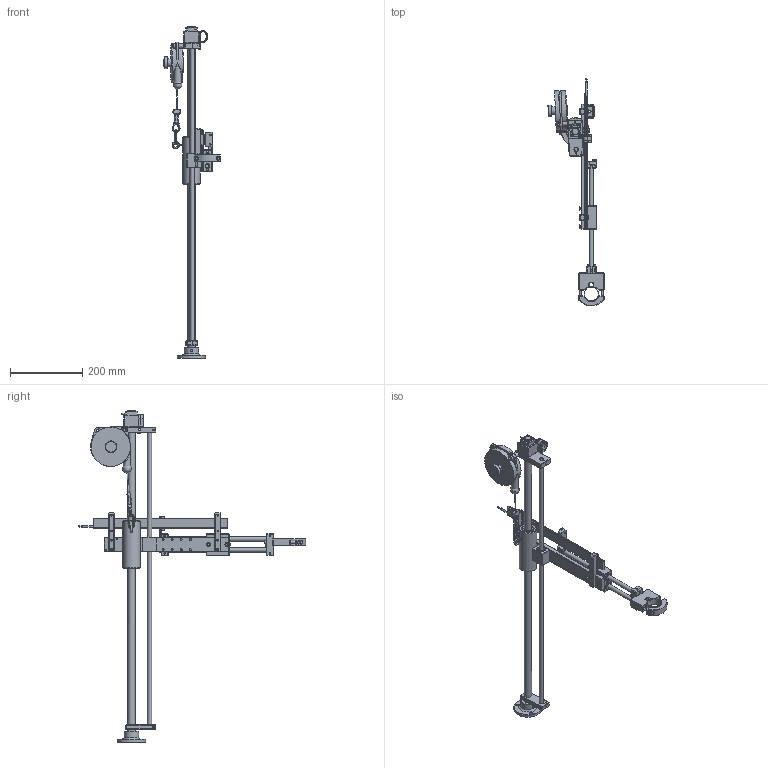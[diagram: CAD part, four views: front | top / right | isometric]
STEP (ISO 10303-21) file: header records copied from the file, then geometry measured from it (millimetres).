
FILE_DESCRIPTION( ( 'Unknown' ), '1' );
FILE_NAME( 'E:/0 Travail/0 Travaux en cours/Doga/Assemblage 2014/BIBLIOTEQUE 3D/Assemblage 2012/12-50-3809 DOGA BA25PC/4-1201086_bras BA 25 PC/4-1201086_bras BA 25 PC.stp', 'Unknown', ( 'Unknown' ), ( 'Unknown' ), 'PSStep 14.0', 'Unknown', ' ' );
FILE_SCHEMA( ( 'AUTOMOTIVE_DESIGN { 1 0 10303 214 1 1 1 1 }' ) );
Length unit declared in the file: millimetre
Products named in the file (51): Sous Ens Equilibreur BA25PC; Platine fixation N°2 - BA25RPC; CHC M8x35; Equilibreur 3-5 Kg; Entretoise; Capteur de position angulaire QUADRO-R; Axe Ø12 BA25RPC; fourreau supérieur pour BA25RPC; Platine fixation fourreau BA25RPC; Sous ens pince BA25; CHC M6x45 fileté sous tete; Collier BA25; Placement pince BA25; Pince BA25; Sous ens coulisses BA25PC; Butoir; CHC M5x20; Axe Coulisse BA25PC; Bride avant; CHC M5x30; Aimant NE86; Aimant PCMAG5; Support aimant BA25PC; Bride arriere BA25PC; Sous Ens mat BA25PC; Axe Ø20 x 800 - BA25RPC; Pied BA25; Aimant; Rondelle AS1226; Butée à aiguilles AXK1226; Roulement à aiguilles HK1212; Anneau élastique pour arbre 12; Sous ens bras BA25PC; Douille KB12; CHC M6x20; FHC M5x20; Boîte à douille; Piton M5; Douille KB20; Vis H M5x10 à collerette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
Assembly tree (70 placements, depth 3):
  Assem1
    Cable equilibreur-oa0
    Collier larg 20
    Collier larg 20
    Sous ens coulisses BA25PC
      Butoir
      CHC M5x20  x4
      Axe Coulisse BA25PC  x2
      Bride avant
      CHC M5x30  x2
      Aimant NE86
      Aimant PCMAG5
      Support aimant BA25PC
      Bride arriere BA25PC
    Sous Ens mat BA25PC
      Axe Ø20 x 800 - BA25RPC
      Pied BA25
      Aimant
      Rondelle AS1226  x2
      Butée à aiguilles AXK1226
      Roulement à aiguilles HK1212  x2
      Anneau élastique pour arbre 12
    Sous ens bras BA25PC
      Douille KB12  x5
      CHC M6x20  x2
      FHC M5x20  x4
      Boîte à douille
      Piton M5
      Douille KB20  x2
      Vis H M5x10 à collerette  x2
      Fourreau BA25
      Plaque support BA25PC
      Pivot N°3 - BA25RPC
      Bride PCFP25 BFS1  x2
      Capteur PCFP25-0200-KAB
      Boitier de dérivation
      Support bride BA25PC  x2
    Sous ens pince BA25
      CHC M6x45 fileté sous tete  x2
      Collier BA25
      Placement pince BA25
      Pince BA25
    Sous Ens Equilibreur BA25PC
      Platine fixation N°2 - BA25RPC
      CHC M8x35
      Equilibreur 3-5 Kg
      Entretoise
      Capteur de position angulaire QUADRO-R
      Axe Ø12 BA25RPC
      fourreau supérieur pour BA25RPC
      Platine fixation fourreau BA25RPC
Bounding box: 154.9 x 628.33 x 916 mm (x, y, z)
Volume: 1718961.1 mm3; surface area: 484800.2 mm2
Topology: 65 solids, 65 shells, 1782 faces, 4333 edges, 2756 vertices
Faces by surface type: plane 1031, cylinder 521, cone 133, extrusion 48, torus 38, sphere 8, bspline 3
Full cylindrical faces by diameter (mm): 1 x5, 1.6 x3, 2 x1, 2.459 x6, 2.5 x5, 3.2 x2, 3.242 x10, 3.5 x1, 4 x13, 4.134 x7, 4.2 x18, 4.3 x4, 4.5 x1, 4.99 x6, 5 x35, 5.2 x6, 5.5 x7, 5.8 x4, 6 x8, 6.5 x3, 6.647 x3, 6.8 x1, 7 x6, 7.5 x1, 7.8 x1, 8 x5, 8.1 x1, 8.5 x9, 9 x13, 10 x9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
Entity records: 54993 total; most frequent: CARTESIAN_POINT 10150, DIRECTION 6634, ORIENTED_EDGE 6070, EDGE_CURVE 3035, AXIS2_PLACEMENT_3D 2402, VERTEX_POINT 2085, EDGE_LOOP 2002, VECTOR 1830
